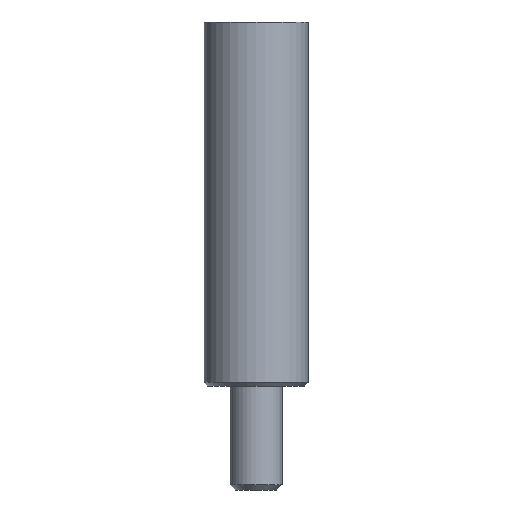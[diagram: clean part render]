
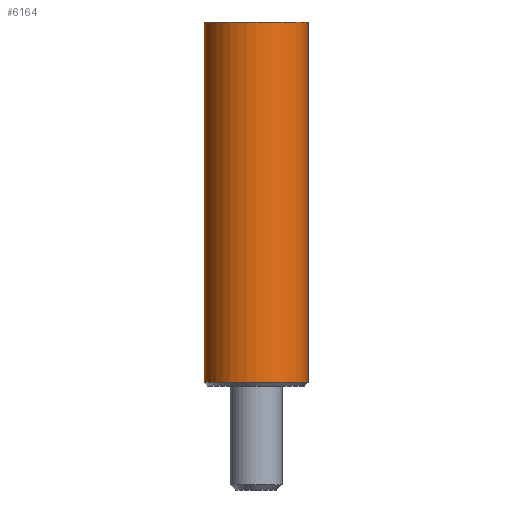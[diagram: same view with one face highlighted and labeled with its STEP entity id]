
A CAD part, front view. The second image highlights one B-rep face of the part: STEP entity #6164.
In plain terms, the highlighted cylindrical face has radius 2 mm (diameter 4 mm), a full revolution.
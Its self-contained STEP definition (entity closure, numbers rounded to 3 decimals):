
#839=CYLINDRICAL_SURFACE('',#6295,2.);
#1167=FACE_OUTER_BOUND('',#1533,.T.);
#1533=EDGE_LOOP('',(#5772,#5773,#5774,#5775));
#1982=LINE('',#12764,#2430);
#2430=VECTOR('',#6953,2.);
#2451=CIRCLE('',#6285,2.);
#2453=CIRCLE('',#6293,2.);
#3059=VERTEX_POINT('',#12748);
#3061=VERTEX_POINT('',#12758);
#3970=EDGE_CURVE('',#3059,#3059,#2451,.T.);
#3972=EDGE_CURVE('',#3061,#3061,#2453,.T.);
#3975=EDGE_CURVE('',#3059,#3061,#1982,.T.);
#5772=ORIENTED_EDGE('',*,*,#3970,.F.);
#5773=ORIENTED_EDGE('',*,*,#3975,.T.);
#5774=ORIENTED_EDGE('',*,*,#3972,.F.);
#5775=ORIENTED_EDGE('',*,*,#3975,.F.);
#6164=ADVANCED_FACE('',(#1167),#839,.T.);
#6285=AXIS2_PLACEMENT_3D('',#12749,#6930,#6931);
#6293=AXIS2_PLACEMENT_3D('',#12759,#6946,#6947);
#6295=AXIS2_PLACEMENT_3D('',#12763,#6951,#6952);
#6930=DIRECTION('center_axis',(0.,0.,1.));
#6931=DIRECTION('ref_axis',(1.,0.,0.));
#6946=DIRECTION('center_axis',(0.,0.,-1.));
#6947=DIRECTION('ref_axis',(1.,0.,0.));
#6951=DIRECTION('center_axis',(0.,0.,1.));
#6952=DIRECTION('ref_axis',(1.,0.,0.));
#6953=DIRECTION('',(0.,0.,-1.));
#12748=CARTESIAN_POINT('',(-2.,0.,14.));
#12749=CARTESIAN_POINT('Origin',(0.,0.,14.));
#12758=CARTESIAN_POINT('',(-2.,0.,0.14));
#12759=CARTESIAN_POINT('Origin',(0.,0.,0.14));
#12763=CARTESIAN_POINT('Origin',(0.,0.,0.));
#12764=CARTESIAN_POINT('',(-2.,0.,0.));
